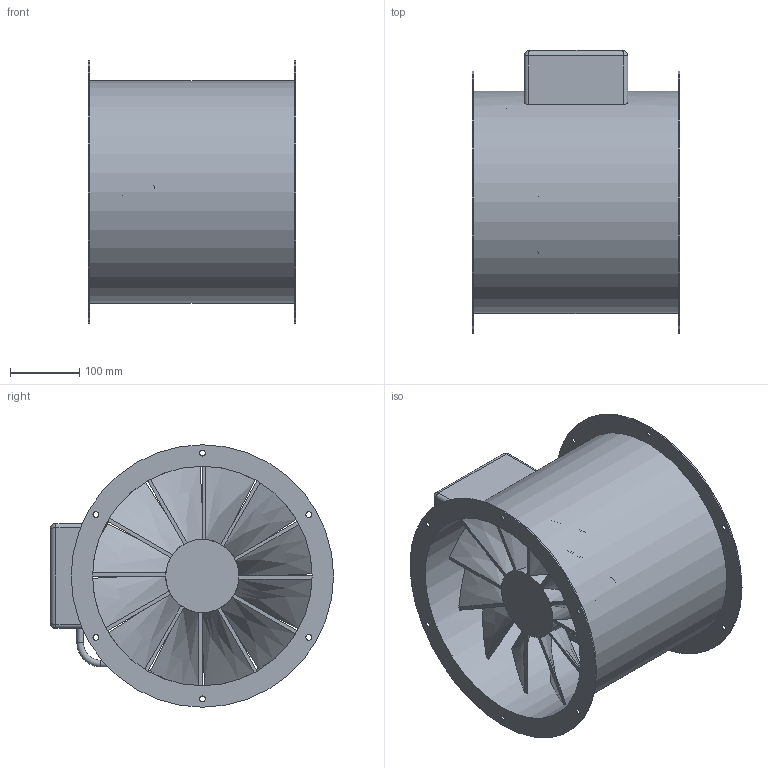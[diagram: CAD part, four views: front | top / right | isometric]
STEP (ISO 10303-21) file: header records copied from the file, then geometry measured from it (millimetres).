
FILE_DESCRIPTION(/* description */ (''),/* implementation_level */ '2;1');
FILE_NAME(/* name */ 'Z:\Output\HRFW 315-4 EX-00439-023.stp',/* time_stamp */ '2017-05-04T18:35:12+02:00',/* author */ ('Engineering1'),/* organization */ (''),/* preprocessor_version */ 'ST-DEVELOPER v16.5',/* originating_system */ 'Autodesk Inventor 2017',/* authorisation */ '');
FILE_SCHEMA (('AUTOMOTIVE_DESIGN { 1 0 10303 214 3 1 1 }'));
Length unit declared in the file: millimetre
Products named in the file (1): HRF-1
Bounding box: 300 x 410 x 380 mm (x, y, z)
Volume: 5535522.2 mm3; surface area: 1109619.4 mm2
Topology: 2 solids, 2 shells, 107 faces, 265 edges, 161 vertices
Faces by surface type: bspline 40, plane 37, cylinder 29, torus 1
Full cylindrical faces by diameter (mm): 8.5 x12, 9.5 x3, 106 x1, 218 x1, 318 x1, 322 x1, 380 x2
Entity records: 4010 total; most frequent: CARTESIAN_POINT 1650, ORIENTED_EDGE 490, DIRECTION 404, EDGE_CURVE 233, EDGE_LOOP 174, VERTEX_POINT 157, AXIS2_PLACEMENT_3D 157, FACE_OUTER_BOUND 107
